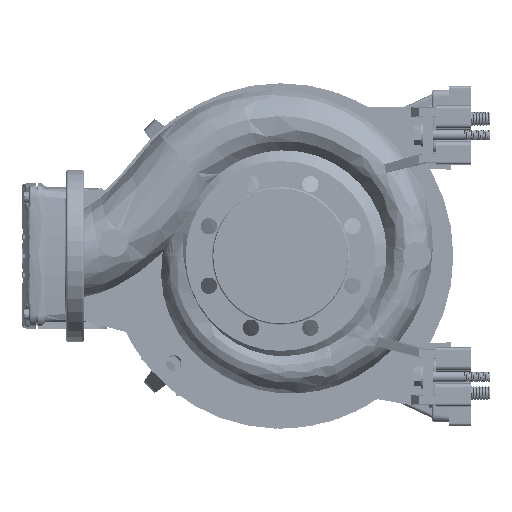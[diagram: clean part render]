
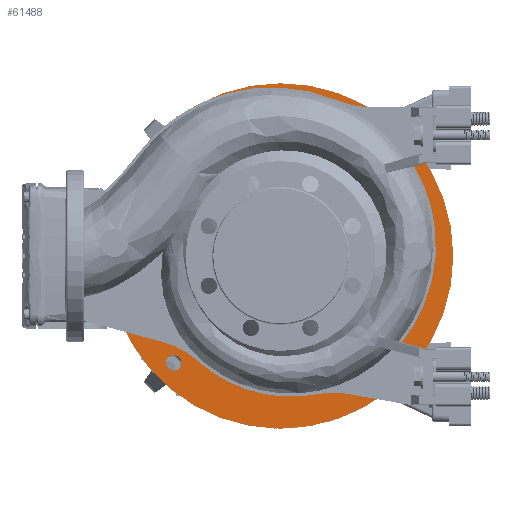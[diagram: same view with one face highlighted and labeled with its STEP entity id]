
A CAD part, left-side view. The second image highlights one B-rep face of the part: STEP entity #61488.
In plain terms, the highlighted planar face has unit normal (-1, 0, 0).
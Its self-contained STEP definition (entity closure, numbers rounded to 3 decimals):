
#2219 = DIRECTION ( 'NONE',  ( 1., 0., 0. ) ) ;
#8396 = FACE_BOUND ( 'NONE', #157278, .T. ) ;
#9856 = ORIENTED_EDGE ( 'NONE', *, *, #164998, .T. ) ;
#15719 = DIRECTION ( 'NONE',  ( 0., 0., -1. ) ) ;
#15925 = ORIENTED_EDGE ( 'NONE', *, *, #239643, .T. ) ;
#15930 = DIRECTION ( 'NONE',  ( 0., 0., 1. ) ) ;
#16028 = EDGE_CURVE ( 'NONE', #256837, #29942, #156270, .T. ) ;
#16628 = CIRCLE ( 'NONE', #119879, 9. ) ;
#25596 = EDGE_CURVE ( 'NONE', #28115, #50392, #110747, .T. ) ;
#27432 = DIRECTION ( 'NONE',  ( 0., 0., -1. ) ) ;
#27592 = CARTESIAN_POINT ( 'NONE',  ( 249.002, 0., -199.999 ) ) ;
#28035 = DIRECTION ( 'NONE',  ( 0., 0., 1. ) ) ;
#28115 = VERTEX_POINT ( 'NONE', #41385 ) ;
#29942 = VERTEX_POINT ( 'NONE', #177691 ) ;
#30038 = ORIENTED_EDGE ( 'NONE', *, *, #39254, .T. ) ;
#30184 = DIRECTION ( 'NONE',  ( 0., 0., 1. ) ) ;
#36021 = CARTESIAN_POINT ( 'NONE',  ( 249.002, 123.744, 132.745 ) ) ;
#36800 = CARTESIAN_POINT ( 'NONE',  ( 249.002, 0., 0.001 ) ) ;
#36942 = ORIENTED_EDGE ( 'NONE', *, *, #267147, .T. ) ;
#39254 = EDGE_CURVE ( 'NONE', #50392, #28115, #43372, .T. ) ;
#41385 = CARTESIAN_POINT ( 'NONE',  ( 249.002, 123.744, -114.743 ) ) ;
#43372 = CIRCLE ( 'NONE', #231820, 9. ) ;
#43892 = CIRCLE ( 'NONE', #173833, 200. ) ;
#49971 = ORIENTED_EDGE ( 'NONE', *, *, #112666, .T. ) ;
#50392 = VERTEX_POINT ( 'NONE', #244472 ) ;
#50497 = AXIS2_PLACEMENT_3D ( 'NONE', #145108, #232163, #15930 ) ;
#51364 = DIRECTION ( 'NONE',  ( 0., 0., 1. ) ) ;
#59295 = CIRCLE ( 'NONE', #50497, 9. ) ;
#59991 = CARTESIAN_POINT ( 'NONE',  ( 249.002, 0., 0.001 ) ) ;
#60983 = VERTEX_POINT ( 'NONE', #106022 ) ;
#61418 = DIRECTION ( 'NONE',  ( 1., 0., 0. ) ) ;
#61488 = ADVANCED_FACE ( 'NONE', ( #181019, #179654, #155803, #134739, #8396, #203464 ), #74304, .T. ) ;
#66014 = CARTESIAN_POINT ( 'NONE',  ( 249.002, -123.744, 114.745 ) ) ;
#68319 = CARTESIAN_POINT ( 'NONE',  ( 249.002, -134.998, 0.001 ) ) ;
#71311 = DIRECTION ( 'NONE',  ( 0., 0., 1. ) ) ;
#74304 = PLANE ( 'NONE',  #176707 ) ;
#78671 = DIRECTION ( 'NONE',  ( 1., 0., 0. ) ) ;
#79778 = CARTESIAN_POINT ( 'NONE',  ( 249.002, -123.744, -123.743 ) ) ;
#84664 = CARTESIAN_POINT ( 'NONE',  ( 249.002, 123.744, -123.743 ) ) ;
#93571 = DIRECTION ( 'NONE',  ( 1., 0., 0. ) ) ;
#95030 = DIRECTION ( 'NONE',  ( 1., 0., 0. ) ) ;
#95758 = VERTEX_POINT ( 'NONE', #226043 ) ;
#101736 = CIRCLE ( 'NONE', #191336, 9. ) ;
#102523 = VERTEX_POINT ( 'NONE', #66014 ) ;
#103374 = CARTESIAN_POINT ( 'NONE',  ( 249.002, -151.792, 16.439 ) ) ;
#103789 = VERTEX_POINT ( 'NONE', #173119 ) ;
#106022 = CARTESIAN_POINT ( 'NONE',  ( 249.002, 0., -152.678 ) ) ;
#107820 = CIRCLE ( 'NONE', #184162, 9. ) ;
#109126 = CARTESIAN_POINT ( 'NONE',  ( 249.002, 0., 200.001 ) ) ;
#110747 = CIRCLE ( 'NONE', #137000, 9. ) ;
#111171 = ORIENTED_EDGE ( 'NONE', *, *, #197530, .T. ) ;
#112666 = EDGE_CURVE ( 'NONE', #60983, #247897, #195814, .T. ) ;
#119879 = AXIS2_PLACEMENT_3D ( 'NONE', #175017, #153919, #239605 ) ;
#121886 = ORIENTED_EDGE ( 'NONE', *, *, #136746, .T. ) ;
#124459 = DIRECTION ( 'NONE',  ( 0., 0., 1. ) ) ;
#130910 = ORIENTED_EDGE ( 'NONE', *, *, #175140, .F. ) ;
#134739 = FACE_BOUND ( 'NONE', #175418, .T. ) ;
#135874 = CARTESIAN_POINT ( 'NONE',  ( 249.002, 123.744, -123.743 ) ) ;
#136127 = EDGE_LOOP ( 'NONE', ( #193740, #171719 ) ) ;
#136746 = EDGE_CURVE ( 'NONE', #95758, #102523, #215907, .T. ) ;
#137000 = AXIS2_PLACEMENT_3D ( 'NONE', #135874, #158329, #71311 ) ;
#138645 = EDGE_LOOP ( 'NONE', ( #15925, #49971, #9856, #140348 ) ) ;
#140348 = ORIENTED_EDGE ( 'NONE', *, *, #16028, .T. ) ;
#145108 = CARTESIAN_POINT ( 'NONE',  ( 249.002, 123.744, 123.745 ) ) ;
#145155 = DIRECTION ( 'NONE',  ( 1., 0., 0. ) ) ;
#146476 = AXIS2_PLACEMENT_3D ( 'NONE', #59991, #232695, #187797 ) ;
#152191 = CIRCLE ( 'NONE', #210302, 152.679 ) ;
#153919 = DIRECTION ( 'NONE',  ( 1., 0., 0. ) ) ;
#154768 = DIRECTION ( 'NONE',  ( 0., 0., 1. ) ) ;
#154880 = CARTESIAN_POINT ( 'NONE',  ( 249.002, -123.744, 123.745 ) ) ;
#155390 = CARTESIAN_POINT ( 'NONE',  ( 249.002, -123.744, 123.745 ) ) ;
#155776 = AXIS2_PLACEMENT_3D ( 'NONE', #243658, #2219, #27432 ) ;
#155803 = FACE_BOUND ( 'NONE', #136127, .T. ) ;
#156270 = CIRCLE ( 'NONE', #187516, 23.5 ) ;
#157125 = VERTEX_POINT ( 'NONE', #27592 ) ;
#157278 = EDGE_LOOP ( 'NONE', ( #203404, #36942 ) ) ;
#158329 = DIRECTION ( 'NONE',  ( 1., 0., 0. ) ) ;
#164998 = EDGE_CURVE ( 'NONE', #247897, #256837, #152191, .T. ) ;
#170298 = DIRECTION ( 'NONE',  ( 1., 0., 0. ) ) ;
#170393 = DIRECTION ( 'NONE',  ( 0., 0., -1. ) ) ;
#171227 = AXIS2_PLACEMENT_3D ( 'NONE', #155390, #95030, #197532 ) ;
#171719 = ORIENTED_EDGE ( 'NONE', *, *, #183862, .T. ) ;
#171791 = CARTESIAN_POINT ( 'NONE',  ( 249.002, 0., 0.001 ) ) ;
#173119 = CARTESIAN_POINT ( 'NONE',  ( 249.002, -123.744, -132.743 ) ) ;
#173833 = AXIS2_PLACEMENT_3D ( 'NONE', #171791, #145155, #170393 ) ;
#175017 = CARTESIAN_POINT ( 'NONE',  ( 249.002, 123.744, 123.745 ) ) ;
#175140 = EDGE_CURVE ( 'NONE', #248349, #157125, #241002, .T. ) ;
#175418 = EDGE_LOOP ( 'NONE', ( #111171, #121886 ) ) ;
#175461 = EDGE_CURVE ( 'NONE', #157125, #248349, #43892, .T. ) ;
#176314 = CARTESIAN_POINT ( 'NONE',  ( 249.002, 0., 152.681 ) ) ;
#176707 = AXIS2_PLACEMENT_3D ( 'NONE', #263944, #241495, #28035 ) ;
#177647 = CARTESIAN_POINT ( 'NONE',  ( 249.002, -123.744, -123.743 ) ) ;
#177691 = CARTESIAN_POINT ( 'NONE',  ( 249.002, -151.792, -16.437 ) ) ;
#179654 = FACE_BOUND ( 'NONE', #250388, .T. ) ;
#181019 = FACE_OUTER_BOUND ( 'NONE', #223840, .T. ) ;
#183862 = EDGE_CURVE ( 'NONE', #256881, #190367, #16628, .T. ) ;
#184162 = AXIS2_PLACEMENT_3D ( 'NONE', #177647, #244994, #30184 ) ;
#187516 = AXIS2_PLACEMENT_3D ( 'NONE', #68319, #93571, #51364 ) ;
#187797 = DIRECTION ( 'NONE',  ( 0., 0., -1. ) ) ;
#190367 = VERTEX_POINT ( 'NONE', #247729 ) ;
#191336 = AXIS2_PLACEMENT_3D ( 'NONE', #79778, #61418, #249685 ) ;
#191880 = EDGE_CURVE ( 'NONE', #103789, #193726, #107820, .T. ) ;
#193726 = VERTEX_POINT ( 'NONE', #194614 ) ;
#193740 = ORIENTED_EDGE ( 'NONE', *, *, #213024, .T. ) ;
#194614 = CARTESIAN_POINT ( 'NONE',  ( 249.002, -123.744, -114.743 ) ) ;
#195814 = CIRCLE ( 'NONE', #146476, 152.679 ) ;
#197530 = EDGE_CURVE ( 'NONE', #102523, #95758, #244128, .T. ) ;
#197532 = DIRECTION ( 'NONE',  ( 0., 0., 1. ) ) ;
#203404 = ORIENTED_EDGE ( 'NONE', *, *, #191880, .T. ) ;
#203464 = FACE_BOUND ( 'NONE', #138645, .T. ) ;
#203608 = AXIS2_PLACEMENT_3D ( 'NONE', #154880, #240569, #124459 ) ;
#210302 = AXIS2_PLACEMENT_3D ( 'NONE', #36800, #237167, #15719 ) ;
#213024 = EDGE_CURVE ( 'NONE', #190367, #256881, #59295, .T. ) ;
#215907 = CIRCLE ( 'NONE', #171227, 9. ) ;
#223840 = EDGE_LOOP ( 'NONE', ( #255967, #130910 ) ) ;
#226043 = CARTESIAN_POINT ( 'NONE',  ( 249.002, -123.744, 132.745 ) ) ;
#228931 = CARTESIAN_POINT ( 'NONE',  ( 249.002, 0., 0.001 ) ) ;
#230665 = ORIENTED_EDGE ( 'NONE', *, *, #25596, .T. ) ;
#231820 = AXIS2_PLACEMENT_3D ( 'NONE', #84664, #170298, #154768 ) ;
#232163 = DIRECTION ( 'NONE',  ( 1., 0., 0. ) ) ;
#232695 = DIRECTION ( 'NONE',  ( 1., 0., 0. ) ) ;
#237167 = DIRECTION ( 'NONE',  ( 1., 0., 0. ) ) ;
#239605 = DIRECTION ( 'NONE',  ( 0., 0., 1. ) ) ;
#239643 = EDGE_CURVE ( 'NONE', #29942, #60983, #271543, .T. ) ;
#240569 = DIRECTION ( 'NONE',  ( 1., 0., 0. ) ) ;
#241002 = CIRCLE ( 'NONE', #155776, 200. ) ;
#241495 = DIRECTION ( 'NONE',  ( -1., 0., 0. ) ) ;
#243658 = CARTESIAN_POINT ( 'NONE',  ( 249.002, 0., 0.001 ) ) ;
#244128 = CIRCLE ( 'NONE', #203608, 9. ) ;
#244472 = CARTESIAN_POINT ( 'NONE',  ( 249.002, 123.744, -132.743 ) ) ;
#244994 = DIRECTION ( 'NONE',  ( 1., 0., 0. ) ) ;
#247729 = CARTESIAN_POINT ( 'NONE',  ( 249.002, 123.744, 114.745 ) ) ;
#247897 = VERTEX_POINT ( 'NONE', #176314 ) ;
#248349 = VERTEX_POINT ( 'NONE', #109126 ) ;
#249685 = DIRECTION ( 'NONE',  ( 0., 0., 1. ) ) ;
#250388 = EDGE_LOOP ( 'NONE', ( #30038, #230665 ) ) ;
#255967 = ORIENTED_EDGE ( 'NONE', *, *, #175461, .F. ) ;
#256837 = VERTEX_POINT ( 'NONE', #103374 ) ;
#256881 = VERTEX_POINT ( 'NONE', #36021 ) ;
#262565 = AXIS2_PLACEMENT_3D ( 'NONE', #228931, #78671, #273829 ) ;
#263944 = CARTESIAN_POINT ( 'NONE',  ( 249.002, 200., 0.001 ) ) ;
#267147 = EDGE_CURVE ( 'NONE', #193726, #103789, #101736, .T. ) ;
#271543 = CIRCLE ( 'NONE', #262565, 152.679 ) ;
#273829 = DIRECTION ( 'NONE',  ( 0., 0., -1. ) ) ;
